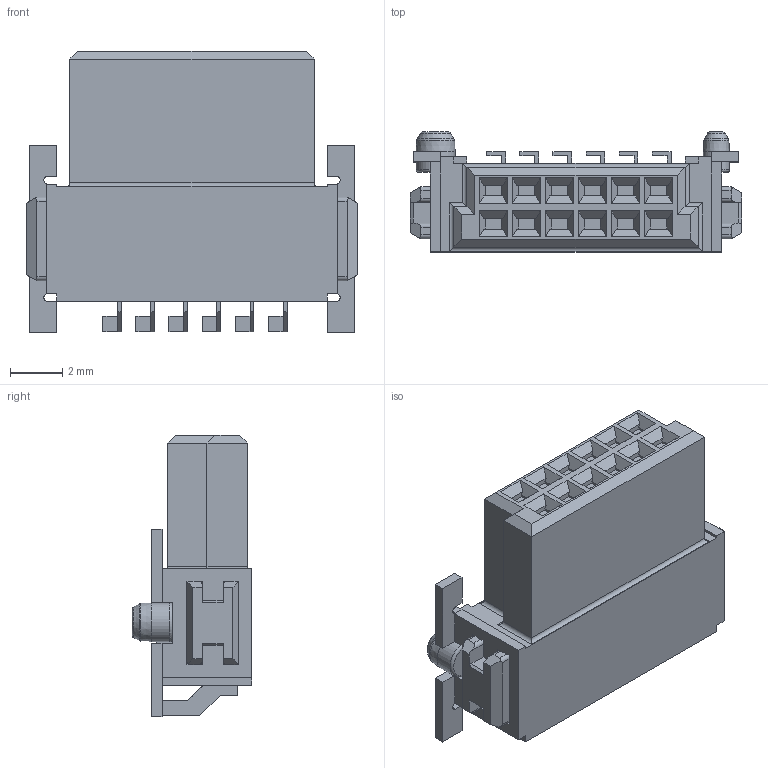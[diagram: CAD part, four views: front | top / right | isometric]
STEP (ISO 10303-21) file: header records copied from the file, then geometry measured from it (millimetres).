
FILE_DESCRIPTION(('Bauteilbeschreibung','HiCAD-Model','HiCAD-STEP-TRANSLATION','Bauteilbeschreibung'),'2;1');
FILE_NAME('C:/DOKUMENTE UND EINSTELLUNGEN/IFREY/DESKTOP/154740_NEU.STP','2006-12-20T14:03:27+00:00',('Konstrukteur'),('Konstrukteur Firma GmbH'),'HiCAD3 V1210 STEP 1.6.2005','HiCAD3 V1210','confidential');
FILE_SCHEMA(('AUTOMOTIVE_DESIGN { 1 2 10303 214 0 1 1 1 }'));
Length unit declared in the file: millimetre
Products named in the file (3): A54740_NEU; A54740_KUNDEN; A54727
Assembly tree (2 placements, depth 3):
  A54740_NEU
    A54740_KUNDEN
      A54727
Bounding box: 12.7 x 4.6 x 10.8 mm (x, y, z)
Volume: 312 mm3; surface area: 474 mm2
Topology: 1 solids, 6 shells, 576 faces, 1537 edges, 995 vertices
Faces by surface type: plane 487, cylinder 74, torus 9, cone 6
Full cylindrical faces by diameter (mm): 0.566 x1, 1.5 x1
Entity records: 30670 total; most frequent: CARTESIAN_POINT 3966, ORIENTED_EDGE 3058, DIRECTION 2827, COLOUR_RGB 2106, PRESENTATION_STYLE_ASSIGNMENT 2106, OVER_RIDING_STYLED_ITEM 2105, CURVE_STYLE 1529, DRAUGHTING_PRE_DEFINED_CURVE_FONT 1529
